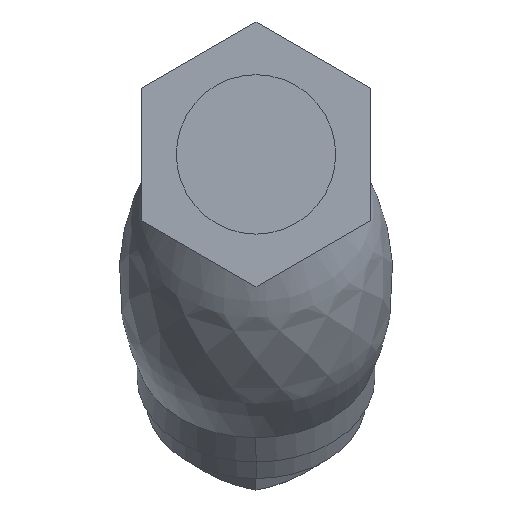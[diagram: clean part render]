
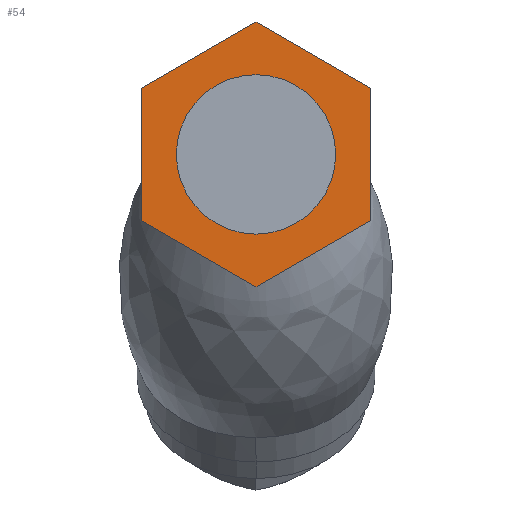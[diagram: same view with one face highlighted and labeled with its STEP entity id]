
A CAD part, left-side view. The second image highlights one B-rep face of the part: STEP entity #54.
In plain terms, the highlighted planar face has unit normal (-1, 0, 0).
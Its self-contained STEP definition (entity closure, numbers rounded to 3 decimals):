
#54=ADVANCED_FACE('',(#252,#253),#251,.F.);
#251=PLANE('',#945);
#252=FACE_OUTER_BOUND('',#946,.T.);
#253=FACE_BOUND('',#947,.T.);
#942=CARTESIAN_POINT('',(-54.,-49.2,56.811));
#943=DIRECTION('',(1.,0.,0.));
#944=DIRECTION('',(0.,0.,-1.));
#945=AXIS2_PLACEMENT_3D('',#942,#943,#944);
#946=EDGE_LOOP('',(#1344,#1345,#1346,#1347,#1348,#1349));
#947=EDGE_LOOP('',(#1350,#1351,#1352));
#1344=ORIENTED_EDGE('',*,*,#1647,.F.);
#1345=ORIENTED_EDGE('',*,*,#1648,.F.);
#1346=ORIENTED_EDGE('',*,*,#1649,.F.);
#1347=ORIENTED_EDGE('',*,*,#1650,.F.);
#1348=ORIENTED_EDGE('',*,*,#1651,.F.);
#1349=ORIENTED_EDGE('',*,*,#1652,.F.);
#1350=ORIENTED_EDGE('',*,*,#1653,.T.);
#1351=ORIENTED_EDGE('',*,*,#1654,.T.);
#1352=ORIENTED_EDGE('',*,*,#1655,.T.);
#1647=EDGE_CURVE('',#2187,#2188,#2189,.T.);
#1648=EDGE_CURVE('',#2195,#2187,#2196,.T.);
#1649=EDGE_CURVE('',#2202,#2195,#2203,.T.);
#1650=EDGE_CURVE('',#2209,#2202,#2210,.T.);
#1651=EDGE_CURVE('',#2216,#2209,#2217,.T.);
#1652=EDGE_CURVE('',#2188,#2216,#2223,.T.);
#1653=EDGE_CURVE('',#2229,#2230,#2231,.T.);
#1654=EDGE_CURVE('',#2230,#2237,#2238,.T.);
#1655=EDGE_CURVE('',#2237,#2229,#2244,.T.);
#2187=VERTEX_POINT('',#3322);
#2188=VERTEX_POINT('',#3323);
#2189=LINE('',#3324,#3325);
#2195=VERTEX_POINT('',#3327);
#2196=LINE('',#3328,#3329);
#2202=VERTEX_POINT('',#3331);
#2203=LINE('',#3332,#3333);
#2209=VERTEX_POINT('',#3335);
#2210=LINE('',#3336,#3337);
#2216=VERTEX_POINT('',#3339);
#2217=LINE('',#3340,#3341);
#2223=LINE('',#3343,#3344);
#2229=VERTEX_POINT('',#3346);
#2230=VERTEX_POINT('',#3347);
#2231=CIRCLE('',#3351,28.5);
#2237=VERTEX_POINT('',#3352);
#2238=CIRCLE('',#3356,28.5);
#2244=CIRCLE('',#3360,28.5);
#3322=CARTESIAN_POINT('',(-54.,0.,47.343));
#3323=CARTESIAN_POINT('',(-54.,-41.,23.671));
#3324=CARTESIAN_POINT('',(-54.,0.,47.343));
#3325=VECTOR('',#3326,47.343);
#3326=DIRECTION('',(0.,-0.866,-0.5));
#3327=CARTESIAN_POINT('',(-54.,41.,23.671));
#3328=CARTESIAN_POINT('',(-54.,41.,23.671));
#3329=VECTOR('',#3330,47.343);
#3330=DIRECTION('',(0.,-0.866,0.5));
#3331=CARTESIAN_POINT('',(-54.,41.,-23.671));
#3332=CARTESIAN_POINT('',(-54.,41.,-23.671));
#3333=VECTOR('',#3334,47.343);
#3334=DIRECTION('',(0.,0.,1.));
#3335=CARTESIAN_POINT('',(-54.,0.,-47.343));
#3336=CARTESIAN_POINT('',(-54.,0.,-47.343));
#3337=VECTOR('',#3338,47.343);
#3338=DIRECTION('',(0.,0.866,0.5));
#3339=CARTESIAN_POINT('',(-54.,-41.,-23.671));
#3340=CARTESIAN_POINT('',(-54.,-41.,-23.671));
#3341=VECTOR('',#3342,47.343);
#3342=DIRECTION('',(0.,0.866,-0.5));
#3343=CARTESIAN_POINT('',(-54.,-41.,23.671));
#3344=VECTOR('',#3345,47.343);
#3345=DIRECTION('',(0.,0.,-1.));
#3346=CARTESIAN_POINT('',(-54.,28.5,0.));
#3347=CARTESIAN_POINT('',(-54.,-0.003,28.5));
#3348=CARTESIAN_POINT('',(-54.,0.,0.));
#3349=DIRECTION('',(1.,0.,0.));
#3350=DIRECTION('',(0.,1.,0.));
#3351=AXIS2_PLACEMENT_3D('',#3348,#3349,#3350);
#3352=CARTESIAN_POINT('',(-54.,0.,-28.5));
#3353=CARTESIAN_POINT('',(-54.,0.,0.));
#3354=DIRECTION('',(1.,0.,0.));
#3355=DIRECTION('',(0.,1.,0.));
#3356=AXIS2_PLACEMENT_3D('',#3353,#3354,#3355);
#3357=CARTESIAN_POINT('',(-54.,0.,0.));
#3358=DIRECTION('',(1.,0.,0.));
#3359=DIRECTION('',(0.,1.,0.));
#3360=AXIS2_PLACEMENT_3D('',#3357,#3358,#3359);
